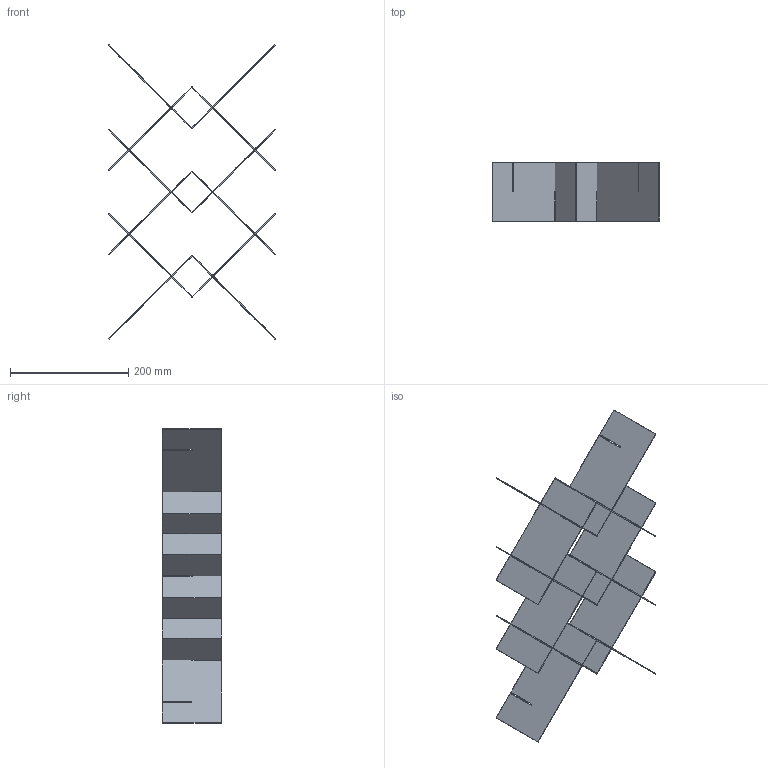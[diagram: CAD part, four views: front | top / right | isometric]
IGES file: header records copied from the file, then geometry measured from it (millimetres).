
Global section: file name: C:\Users\colombo_c\Desktop\Danese\Sito\3D mancanti\Struttura continua\Struttura continua.igs; native system: Rhinoceros ( Apr 16 2024 ); preprocessor: Trout Lake IGES 012 Apr 16 2024; date: 250626.121546; units: millimetre
Bounding box: 283.11 x 100.07 x 497.96 mm (x, y, z)
Surface area: 485553.2 mm2 (no closed solid volume)
Topology: 0 solids, 0 shells, 228 faces, 1296 edges, 1296 vertices
Faces by surface type: bspline 228
